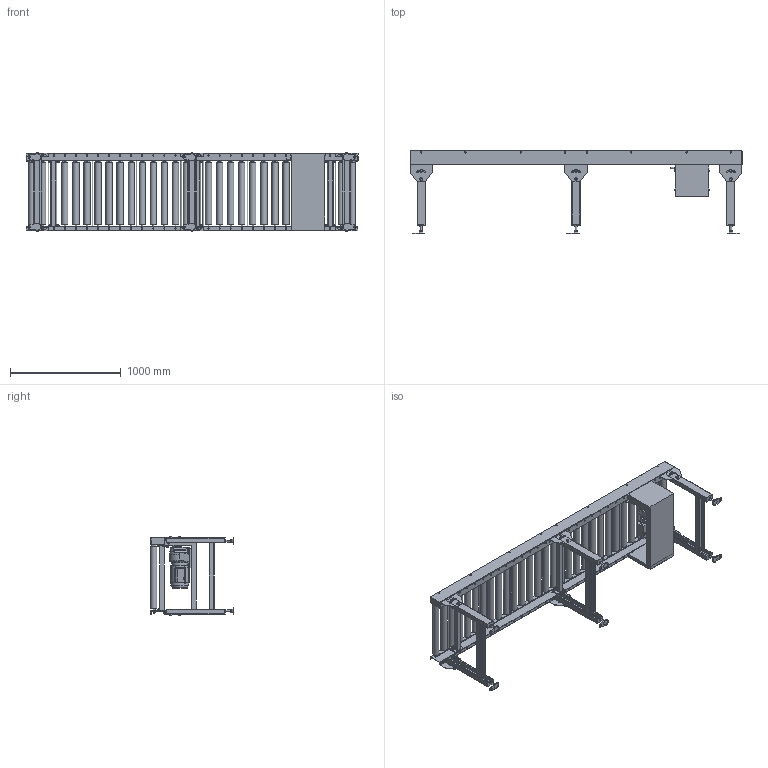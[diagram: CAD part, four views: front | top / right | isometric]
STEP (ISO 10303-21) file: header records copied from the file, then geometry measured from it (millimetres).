
FILE_DESCRIPTION( (''), '2;1');
FILE_NAME ('WEB-MCC4H-57-3-075-630-100-300-L-10S.stp','2025-06-18T08:54:44',(''),(''),'spGate 20.6.2 (****-****-****-****)','','');
FILE_SCHEMA (('AUTOMOTIVE_DESIGN'));
Length unit declared in the file: millimetre
Products named in the file (33): WEB-MCC4H-57-3-075-630-100-300-L-10S; TEMP_X_T-prt0; TEMP_X_T-prt1; TEMP_X_T-prt2; TEMP_X_T-prt3; TEMP_X_T-prt4; TEMP_X_T-prt5; TEMP_X_T-prt6; TEMP_X_T-prt7; TEMP_X_T-prt8; TEMP_X_T-prt9; TEMP_X_T-prt10; TEMP_X_T-prt11; TEMP_X_T-prt12; TEMP_X_T-prt13; TEMP_X_T-prt14; TEMP_X_T-prt15; TEMP_X_T-prt16; TEMP_X_T-prt17; TEMP_X_T-prt18; TEMP_X_T-prt19; TEMP_X_T-prt20; TEMP_X_T-prt21; TEMP_X_T-prt22; TEMP_X_T-prt23; TEMP_X_T-prt24; TEMP_X_T-prt25; TEMP_X_T-prt26; TEMP_X_T-prt27; TEMP_X_T-prt28; TEMP_X_T-prt29; TEMP_X_T-prt30; TEMP_X_T-prt31
Assembly tree (32 placements, depth 2):
  WEB-MCC4H-57-3-075-630-100-300-L-10S
    TEMP_X_T-prt0
    TEMP_X_T-prt1
    TEMP_X_T-prt2
    TEMP_X_T-prt3
    TEMP_X_T-prt4
    TEMP_X_T-prt5
    TEMP_X_T-prt6
    TEMP_X_T-prt7
    TEMP_X_T-prt8
    TEMP_X_T-prt9
    TEMP_X_T-prt10
    TEMP_X_T-prt11
    TEMP_X_T-prt12
    TEMP_X_T-prt13
    TEMP_X_T-prt14
    TEMP_X_T-prt15
    TEMP_X_T-prt16
    TEMP_X_T-prt17
    TEMP_X_T-prt18
    TEMP_X_T-prt19
    TEMP_X_T-prt20
    TEMP_X_T-prt21
    TEMP_X_T-prt22
    TEMP_X_T-prt23
    TEMP_X_T-prt24
    TEMP_X_T-prt25
    TEMP_X_T-prt26
    TEMP_X_T-prt27
    TEMP_X_T-prt28
    TEMP_X_T-prt29
    TEMP_X_T-prt30
    TEMP_X_T-prt31
Bounding box: 3002.4 x 750.3 x 714.4 mm (x, y, z)
Volume: 100233579 mm3; surface area: 9535300.1 mm2
Topology: 32 solids, 32 shells, 3422 faces, 8509 edges, 5709 vertices
Faces by surface type: plane 2585, cylinder 763, bspline 57, sphere 17
Full cylindrical faces by diameter (mm): 6 x30, 6.94 x3, 7 x1, 8 x33, 9.2 x4, 10 x83, 10.5 x14, 11 x60, 11.8 x16, 12 x9, 13 x14, 15 x4, 15.4 x35, 15.5 x30, 16 x24, 18 x25, 18.4 x22, 21 x4, 22 x19, 24 x42, 24.5 x4, 25 x4, 27 x1, 30 x1, 37 x30, 38 x1, 45 x1, 47 x30, 57 x30, 75 x1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
Entity records: 174226 total; most frequent: CARTESIAN_POINT 20921, DIRECTION 17348, ORIENTED_EDGE 16986, COLOUR_RGB 11947, PRESENTATION_STYLE_ASSIGNMENT 11947, STYLED_ITEM 11947, EDGE_CURVE 8493, DRAUGHTING_PRE_DEFINED_CURVE_FONT 8493
